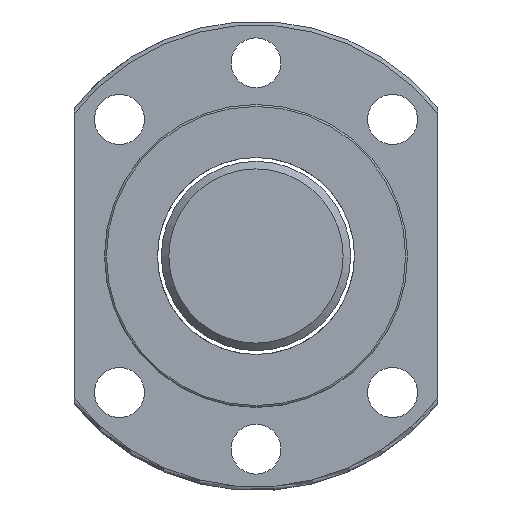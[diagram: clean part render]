
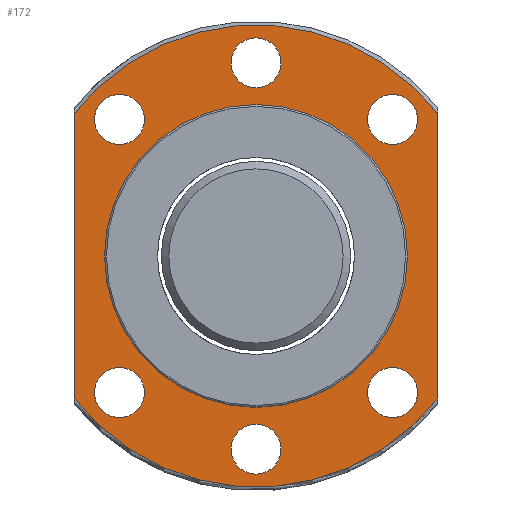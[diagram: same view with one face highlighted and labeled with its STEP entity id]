
A CAD part, left-side view. The second image highlights one B-rep face of the part: STEP entity #172.
In plain terms, the highlighted planar face has unit normal (-1, 0, 0).
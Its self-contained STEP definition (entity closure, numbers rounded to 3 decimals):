
#103=LINE('',#1156,#111);
#104=LINE('',#1157,#112);
#111=VECTOR('',#802,1.);
#112=VECTOR('',#803,1.);
#172=ADVANCED_FACE('',(#220,#251,#252,#253,#254,#255,#256,#257),#201,.T.);
#201=PLANE('',#689);
#220=FACE_OUTER_BOUND('',#320,.T.);
#251=FACE_BOUND('',#321,.T.);
#252=FACE_BOUND('',#322,.T.);
#253=FACE_BOUND('',#323,.T.);
#254=FACE_BOUND('',#324,.T.);
#255=FACE_BOUND('',#325,.T.);
#256=FACE_BOUND('',#326,.T.);
#257=FACE_BOUND('',#327,.T.);
#320=EDGE_LOOP('',(#423,#424,#425,#426));
#321=EDGE_LOOP('',(#427));
#322=EDGE_LOOP('',(#428));
#323=EDGE_LOOP('',(#429));
#324=EDGE_LOOP('',(#430));
#325=EDGE_LOOP('',(#431));
#326=EDGE_LOOP('',(#432));
#327=EDGE_LOOP('',(#433));
#423=ORIENTED_EDGE('',*,*,#583,.F.);
#424=ORIENTED_EDGE('',*,*,#563,.F.);
#425=ORIENTED_EDGE('',*,*,#584,.T.);
#426=ORIENTED_EDGE('',*,*,#581,.F.);
#427=ORIENTED_EDGE('',*,*,#585,.T.);
#428=ORIENTED_EDGE('',*,*,#586,.F.);
#429=ORIENTED_EDGE('',*,*,#587,.F.);
#430=ORIENTED_EDGE('',*,*,#588,.F.);
#431=ORIENTED_EDGE('',*,*,#589,.F.);
#432=ORIENTED_EDGE('',*,*,#590,.F.);
#433=ORIENTED_EDGE('',*,*,#591,.F.);
#508=VERTEX_POINT('',#1023);
#509=VERTEX_POINT('',#1043);
#523=VERTEX_POINT('',#1133);
#524=VERTEX_POINT('',#1135);
#525=VERTEX_POINT('',#1159);
#526=VERTEX_POINT('',#1161);
#527=VERTEX_POINT('',#1163);
#528=VERTEX_POINT('',#1165);
#529=VERTEX_POINT('',#1167);
#530=VERTEX_POINT('',#1169);
#531=VERTEX_POINT('',#1171);
#563=EDGE_CURVE('',#509,#508,#615,.T.);
#581=EDGE_CURVE('',#523,#524,#626,.T.);
#583=EDGE_CURVE('',#508,#523,#103,.T.);
#584=EDGE_CURVE('',#509,#524,#104,.T.);
#585=EDGE_CURVE('',#525,#525,#627,.T.);
#586=EDGE_CURVE('',#526,#526,#628,.T.);
#587=EDGE_CURVE('',#527,#527,#629,.T.);
#588=EDGE_CURVE('',#528,#528,#630,.T.);
#589=EDGE_CURVE('',#529,#529,#631,.T.);
#590=EDGE_CURVE('',#530,#530,#632,.T.);
#591=EDGE_CURVE('',#531,#531,#633,.T.);
#615=CIRCLE('',#665,30.5);
#626=CIRCLE('',#680,30.5);
#627=CIRCLE('',#682,20.);
#628=CIRCLE('',#683,3.3);
#629=CIRCLE('',#684,3.3);
#630=CIRCLE('',#685,3.3);
#631=CIRCLE('',#686,3.3);
#632=CIRCLE('',#687,3.3);
#633=CIRCLE('',#688,3.3);
#665=AXIS2_PLACEMENT_3D('',#1044,#764,#765);
#680=AXIS2_PLACEMENT_3D('',#1134,#798,#799);
#682=AXIS2_PLACEMENT_3D('',#1158,#804,#805);
#683=AXIS2_PLACEMENT_3D('',#1160,#806,#807);
#684=AXIS2_PLACEMENT_3D('',#1162,#808,#809);
#685=AXIS2_PLACEMENT_3D('',#1164,#810,#811);
#686=AXIS2_PLACEMENT_3D('',#1166,#812,#813);
#687=AXIS2_PLACEMENT_3D('',#1168,#814,#815);
#688=AXIS2_PLACEMENT_3D('',#1170,#816,#817);
#689=AXIS2_PLACEMENT_3D('',#1172,#818,#819);
#764=DIRECTION('',(1.,0.,0.));
#765=DIRECTION('',(0.,0.,-1.));
#798=DIRECTION('',(1.,0.,0.));
#799=DIRECTION('',(0.,0.,-1.));
#802=DIRECTION('',(0.,0.,1.));
#803=DIRECTION('',(0.,0.,1.));
#804=DIRECTION('',(1.,0.,0.));
#805=DIRECTION('',(0.,0.,-1.));
#806=DIRECTION('',(-1.,0.,0.));
#807=DIRECTION('',(0.,0.,1.));
#808=DIRECTION('',(-1.,0.,0.));
#809=DIRECTION('',(0.,0.,1.));
#810=DIRECTION('',(-1.,0.,0.));
#811=DIRECTION('',(0.,0.,1.));
#812=DIRECTION('',(-1.,0.,0.));
#813=DIRECTION('',(0.,0.,1.));
#814=DIRECTION('',(-1.,0.,0.));
#815=DIRECTION('',(0.,0.,1.));
#816=DIRECTION('',(-1.,0.,0.));
#817=DIRECTION('',(0.,0.,1.));
#818=DIRECTION('',(-1.,0.,0.));
#819=DIRECTION('',(0.,0.,1.));
#1023=CARTESIAN_POINT('',(-31.,24.,-18.822));
#1043=CARTESIAN_POINT('',(-31.,-24.,-18.822));
#1044=CARTESIAN_POINT('',(-31.,0.,0.));
#1133=CARTESIAN_POINT('',(-31.,24.,18.822));
#1134=CARTESIAN_POINT('',(-31.,0.,0.));
#1135=CARTESIAN_POINT('',(-31.,-24.,18.822));
#1156=CARTESIAN_POINT('',(-31.,24.,0.));
#1157=CARTESIAN_POINT('',(-31.,-24.,0.));
#1158=CARTESIAN_POINT('',(-31.,0.,0.));
#1159=CARTESIAN_POINT('',(-31.,0.,-20.));
#1160=CARTESIAN_POINT('',(-31.,18.031,18.031));
#1161=CARTESIAN_POINT('',(-31.,18.031,21.331));
#1162=CARTESIAN_POINT('',(-31.,-18.031,18.031));
#1163=CARTESIAN_POINT('',(-31.,-18.031,21.331));
#1164=CARTESIAN_POINT('',(-31.,-18.031,-18.031));
#1165=CARTESIAN_POINT('',(-31.,-18.031,-14.731));
#1166=CARTESIAN_POINT('',(-31.,18.031,-18.031));
#1167=CARTESIAN_POINT('',(-31.,18.031,-14.731));
#1168=CARTESIAN_POINT('',(-31.,0.,25.5));
#1169=CARTESIAN_POINT('',(-31.,0.,28.8));
#1170=CARTESIAN_POINT('',(-31.,0.,-25.5));
#1171=CARTESIAN_POINT('',(-31.,0.,-22.2));
#1172=CARTESIAN_POINT('',(-31.,25.25,0.));
